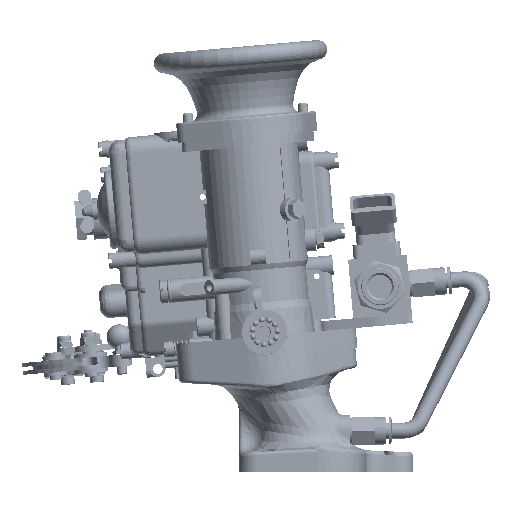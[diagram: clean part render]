
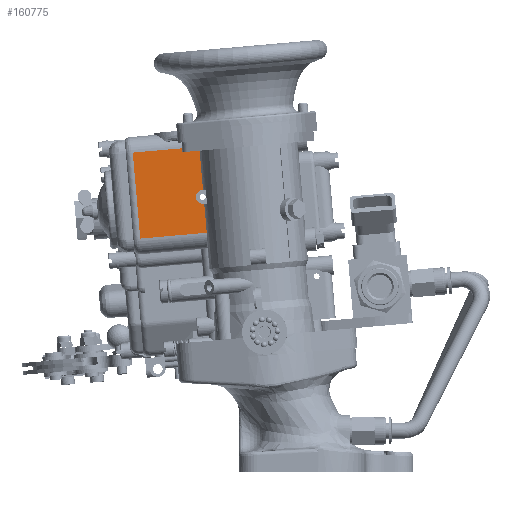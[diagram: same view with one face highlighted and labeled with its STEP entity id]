
A CAD part, left-side view. The second image highlights one B-rep face of the part: STEP entity #160775.
In plain terms, the highlighted planar face has unit normal (-1, 0, 0).
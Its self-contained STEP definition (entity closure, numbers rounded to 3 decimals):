
#1658 = CARTESIAN_POINT ( 'NONE',  ( -136.577, 90.773, 119. ) ) ;
#1891 = VERTEX_POINT ( 'NONE', #98515 ) ;
#2593 = DIRECTION ( 'NONE',  ( 0., 0.087, 0.996 ) ) ;
#3293 = CARTESIAN_POINT ( 'NONE',  ( -136.577, 66.584, 163.277 ) ) ;
#3544 = VERTEX_POINT ( 'NONE', #45632 ) ;
#9256 = CARTESIAN_POINT ( 'NONE',  ( -136.577, 90.773, 119. ) ) ;
#9430 = CARTESIAN_POINT ( 'NONE',  ( -136.577, 58.17, 136.782 ) ) ;
#10554 = VERTEX_POINT ( 'NONE', #173008 ) ;
#12851 = DIRECTION ( 'NONE',  ( 1., 0., 0. ) ) ;
#21168 = DIRECTION ( 'NONE',  ( -1., 0., 0. ) ) ;
#21983 = ORIENTED_EDGE ( 'NONE', *, *, #185287, .T. ) ;
#27134 = VERTEX_POINT ( 'NONE', #110607 ) ;
#29235 = DIRECTION ( 'NONE',  ( 0., 0.996, -0.087 ) ) ;
#30672 = LINE ( 'NONE', #94721, #33313 ) ;
#33313 = VECTOR ( 'NONE', #158690, 1000. ) ;
#36921 = FACE_OUTER_BOUND ( 'NONE', #190718, .T. ) ;
#37017 = LINE ( 'NONE', #101077, #115816 ) ;
#40551 = CARTESIAN_POINT ( 'NONE',  ( -136.577, 75.94, 142.254 ) ) ;
#45632 = CARTESIAN_POINT ( 'NONE',  ( -136.577, 60.534, 163.806 ) ) ;
#46462 = EDGE_CURVE ( 'NONE', #107279, #121465, #55986, .T. ) ;
#47729 = VECTOR ( 'NONE', #2593, 1000. ) ;
#49657 = ORIENTED_EDGE ( 'NONE', *, *, #46462, .F. ) ;
#50753 = EDGE_CURVE ( 'NONE', #159545, #3544, #131054, .T. ) ;
#51293 = DIRECTION ( 'NONE',  ( 0., 0.087, 0.996 ) ) ;
#53047 = ORIENTED_EDGE ( 'NONE', *, *, #102337, .T. ) ;
#55986 = LINE ( 'NONE', #120005, #206781 ) ;
#56589 = CARTESIAN_POINT ( 'NONE',  ( -136.577, 66.759, 165.269 ) ) ;
#61758 = LINE ( 'NONE', #125770, #170395 ) ;
#64638 = AXIS2_PLACEMENT_3D ( 'NONE', #108413, #12851, #76914 ) ;
#65726 = DIRECTION ( 'NONE',  ( 0., -0.996, 0.087 ) ) ;
#71572 = VECTOR ( 'NONE', #65726, 1000. ) ;
#76914 = DIRECTION ( 'NONE',  ( 0., -0.996, 0.087 ) ) ;
#82420 = LINE ( 'NONE', #146374, #47729 ) ;
#82597 = ORIENTED_EDGE ( 'NONE', *, *, #151090, .T. ) ;
#85242 = DIRECTION ( 'NONE',  ( 0., 0.996, -0.087 ) ) ;
#94721 = CARTESIAN_POINT ( 'NONE',  ( -136.577, 65.046, 163.411 ) ) ;
#96625 = EDGE_CURVE ( 'NONE', #101158, #107279, #61758, .T. ) ;
#98515 = CARTESIAN_POINT ( 'NONE',  ( -136.577, 56.873, 121.966 ) ) ;
#100966 = ORIENTED_EDGE ( 'NONE', *, *, #144893, .T. ) ;
#100980 = PLANE ( 'NONE',  #156909 ) ;
#101077 = CARTESIAN_POINT ( 'NONE',  ( -136.577, 61.019, 169.353 ) ) ;
#101158 = VERTEX_POINT ( 'NONE', #9256 ) ;
#102337 = EDGE_CURVE ( 'NONE', #166933, #10554, #109038, .T. ) ;
#102370 = ORIENTED_EDGE ( 'NONE', *, *, #169772, .T. ) ;
#104595 = DIRECTION ( 'NONE',  ( 0., -0.996, 0.087 ) ) ;
#107279 = VERTEX_POINT ( 'NONE', #163085 ) ;
#108413 = CARTESIAN_POINT ( 'NONE',  ( -136.577, 58.895, 140.232 ) ) ;
#109038 = LINE ( 'NONE', #172998, #178465 ) ;
#110607 = CARTESIAN_POINT ( 'NONE',  ( -136.577, 59.2, 143.719 ) ) ;
#115816 = VECTOR ( 'NONE', #165037, 1000. ) ;
#120005 = CARTESIAN_POINT ( 'NONE',  ( -136.577, 94.608, 162.833 ) ) ;
#121465 = VERTEX_POINT ( 'NONE', #56589 ) ;
#125770 = CARTESIAN_POINT ( 'NONE',  ( -136.577, 90.773, 119. ) ) ;
#131054 = LINE ( 'NONE', #195044, #177059 ) ;
#139009 = CARTESIAN_POINT ( 'NONE',  ( -136.577, 58.78, 143.755 ) ) ;
#144893 = EDGE_CURVE ( 'NONE', #3544, #201395, #30672, .T. ) ;
#145422 = LINE ( 'NONE', #1658, #71572 ) ;
#146374 = CARTESIAN_POINT ( 'NONE',  ( -136.577, 66.89, 166.763 ) ) ;
#151090 = EDGE_CURVE ( 'NONE', #27134, #159545, #200084, .T. ) ;
#152592 = EDGE_CURVE ( 'NONE', #101158, #1891, #145422, .T. ) ;
#155088 = CIRCLE ( 'NONE', #64638, 3.5 ) ;
#155506 = ORIENTED_EDGE ( 'NONE', *, *, #96625, .F. ) ;
#156909 = AXIS2_PLACEMENT_3D ( 'NONE', #164943, #21168, #85242 ) ;
#156924 = ORIENTED_EDGE ( 'NONE', *, *, #152592, .T. ) ;
#158690 = DIRECTION ( 'NONE',  ( 0., 0.996, -0.087 ) ) ;
#159545 = VERTEX_POINT ( 'NONE', #139009 ) ;
#160775 = ADVANCED_FACE ( 'NONE', ( #36921 ), #100980, .T. ) ;
#162786 = ORIENTED_EDGE ( 'NONE', *, *, #50753, .T. ) ;
#163085 = CARTESIAN_POINT ( 'NONE',  ( -136.577, 94.608, 162.833 ) ) ;
#164943 = CARTESIAN_POINT ( 'NONE',  ( -136.577, 94.608, 162.833 ) ) ;
#165037 = DIRECTION ( 'NONE',  ( 0., 0.087, 0.996 ) ) ;
#166933 = VERTEX_POINT ( 'NONE', #9430 ) ;
#169772 = EDGE_CURVE ( 'NONE', #10554, #27134, #155088, .T. ) ;
#169788 = ORIENTED_EDGE ( 'NONE', *, *, #173003, .T. ) ;
#170395 = VECTOR ( 'NONE', #189758, 1000. ) ;
#172998 = CARTESIAN_POINT ( 'NONE',  ( -136.577, 62.682, 136.387 ) ) ;
#173003 = EDGE_CURVE ( 'NONE', #1891, #166933, #37017, .T. ) ;
#173008 = CARTESIAN_POINT ( 'NONE',  ( -136.577, 58.59, 136.745 ) ) ;
#177059 = VECTOR ( 'NONE', #51293, 1000. ) ;
#178465 = VECTOR ( 'NONE', #29235, 1000. ) ;
#183967 = DIRECTION ( 'NONE',  ( 0., -0.996, 0.087 ) ) ;
#185287 = EDGE_CURVE ( 'NONE', #201395, #121465, #82420, .T. ) ;
#189758 = DIRECTION ( 'NONE',  ( 0., 0.087, 0.996 ) ) ;
#190718 = EDGE_LOOP ( 'NONE', ( #53047, #102370, #82597, #162786, #100966, #21983, #49657, #155506, #156924, #169788 ) ) ;
#195044 = CARTESIAN_POINT ( 'NONE',  ( -136.577, 61.019, 169.353 ) ) ;
#200084 = LINE ( 'NONE', #40551, #201880 ) ;
#201395 = VERTEX_POINT ( 'NONE', #3293 ) ;
#201880 = VECTOR ( 'NONE', #104595, 1000. ) ;
#206781 = VECTOR ( 'NONE', #183967, 1000. ) ;
